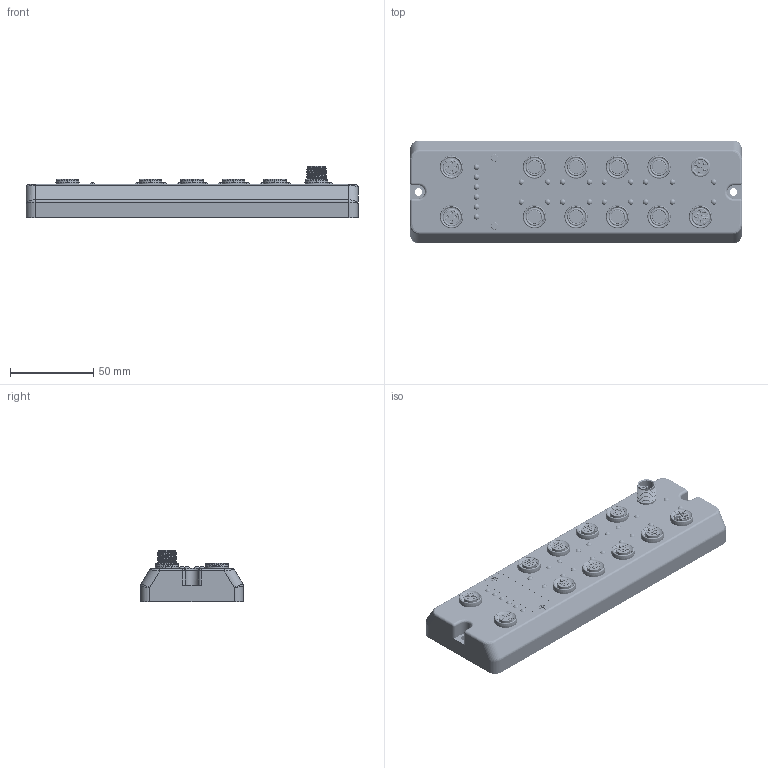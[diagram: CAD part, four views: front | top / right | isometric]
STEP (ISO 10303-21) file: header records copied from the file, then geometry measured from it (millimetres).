
FILE_DESCRIPTION((''),'2;1');
FILE_NAME('IO-LINK-00','2026-06-10T15:27:13',('zhouyu1'),(''),'CREO PARAMETRIC BY PTC INC, 2016390','CREO PARAMETRIC BY PTC INC, 2016390','');
FILE_SCHEMA(('AUTOMOTIVE_DESIGN { 1 0 10303 214 1 1 1 1 }'));
Products named in the file (1): IO-LINK-00
Bounding box: 200 x 62 x 30.9 mm (x, y, z)
Volume: 116736.9 mm3; surface area: 91036.1 mm2
Topology: 1 solids, 1 shells, 2760 faces, 6880 edges, 4463 vertices
Faces by surface type: cylinder 1134, plane 1041, cone 192, extrusion 112, torus 108, bspline 106, sphere 67
Entity records: 170914 total; most frequent: CARTESIAN_POINT 84707, DIRECTION 13743, ORIENTED_EDGE 13708, EDGE_CURVE 6854, AXIS2_PLACEMENT_3D 5105, VERTEX_POINT 4463, VECTOR 3533, LINE 3421
